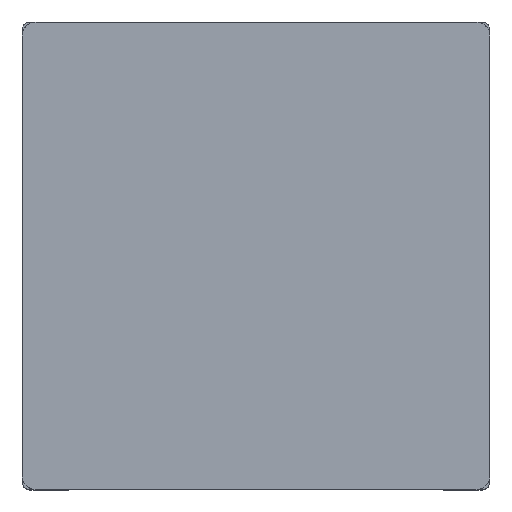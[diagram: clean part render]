
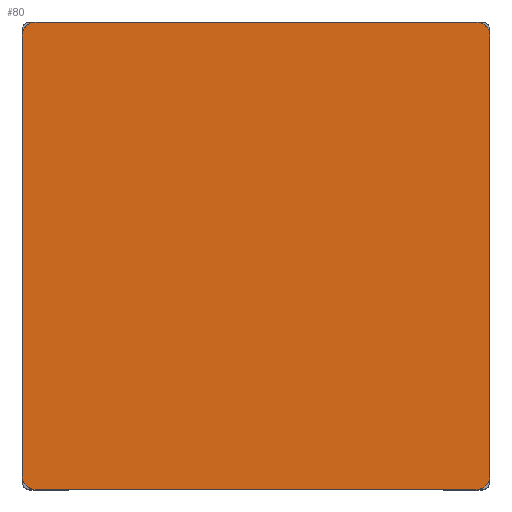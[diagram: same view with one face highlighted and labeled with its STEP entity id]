
A CAD part, top view. The second image highlights one B-rep face of the part: STEP entity #80.
In plain terms, the highlighted planar face has unit normal (0, 0, 1).
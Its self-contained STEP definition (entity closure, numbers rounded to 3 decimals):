
#80=ADVANCED_FACE($,(#238),#2098,.T.);
#238=FACE_OUTER_BOUND($,#396,.T.);
#396=EDGE_LOOP($,(#596,#597,#598,#599,#600,#601,#602,#603));
#596=ORIENTED_EDGE($,*,*,#1391,.F.);
#597=ORIENTED_EDGE($,*,*,#1382,.F.);
#598=ORIENTED_EDGE($,*,*,#1390,.F.);
#599=ORIENTED_EDGE($,*,*,#1381,.F.);
#600=ORIENTED_EDGE($,*,*,#1389,.F.);
#601=ORIENTED_EDGE($,*,*,#1380,.F.);
#602=ORIENTED_EDGE($,*,*,#1388,.F.);
#603=ORIENTED_EDGE($,*,*,#1383,.F.);
#1380=EDGE_CURVE($,#1781,#1780,#2350,.T.);
#1381=EDGE_CURVE($,#1783,#1782,#2351,.T.);
#1382=EDGE_CURVE($,#1785,#1784,#2352,.T.);
#1383=EDGE_CURVE($,#1787,#1786,#2353,.T.);
#1388=EDGE_CURVE($,#1786,#1781,#2166,.T.);
#1389=EDGE_CURVE($,#1780,#1783,#2167,.T.);
#1390=EDGE_CURVE($,#1782,#1785,#2168,.T.);
#1391=EDGE_CURVE($,#1784,#1787,#2169,.T.);
#1780=VERTEX_POINT($,#2918);
#1781=VERTEX_POINT($,#2919);
#1782=VERTEX_POINT($,#2920);
#1783=VERTEX_POINT($,#2921);
#1784=VERTEX_POINT($,#2922);
#1785=VERTEX_POINT($,#2923);
#1786=VERTEX_POINT($,#2924);
#1787=VERTEX_POINT($,#2925);
#2098=PLANE($,#2648);
#2166=(
BOUNDED_CURVE()
B_SPLINE_CURVE(2,(#2812,#2813,#2814),.UNSPECIFIED.,.F.,.F.)
B_SPLINE_CURVE_WITH_KNOTS((3,3),(-1.,0.),.UNSPECIFIED.)
CURVE()
GEOMETRIC_REPRESENTATION_ITEM()
RATIONAL_B_SPLINE_CURVE((1.,0.707,1.))
REPRESENTATION_ITEM($)
);
#2167=(
BOUNDED_CURVE()
B_SPLINE_CURVE(2,(#2815,#2816,#2817),.UNSPECIFIED.,.F.,.F.)
B_SPLINE_CURVE_WITH_KNOTS((3,3),(0.,1.),.UNSPECIFIED.)
CURVE()
GEOMETRIC_REPRESENTATION_ITEM()
RATIONAL_B_SPLINE_CURVE((1.,0.707,1.))
REPRESENTATION_ITEM($)
);
#2168=(
BOUNDED_CURVE()
B_SPLINE_CURVE(2,(#2818,#2819,#2820),.UNSPECIFIED.,.F.,.F.)
B_SPLINE_CURVE_WITH_KNOTS((3,3),(0.,1.),.UNSPECIFIED.)
CURVE()
GEOMETRIC_REPRESENTATION_ITEM()
RATIONAL_B_SPLINE_CURVE((1.,0.707,1.))
REPRESENTATION_ITEM($)
);
#2169=(
BOUNDED_CURVE()
B_SPLINE_CURVE(2,(#2821,#2822,#2823),.UNSPECIFIED.,.F.,.F.)
B_SPLINE_CURVE_WITH_KNOTS((3,3),(0.,1.),.UNSPECIFIED.)
CURVE()
GEOMETRIC_REPRESENTATION_ITEM()
RATIONAL_B_SPLINE_CURVE((1.,0.707,1.))
REPRESENTATION_ITEM($)
);
#2350=B_SPLINE_CURVE_WITH_KNOTS($,1,(#2792,#2793),.UNSPECIFIED.,.F.,.F.,
(2,2),(30.,970.),.UNSPECIFIED.);
#2351=B_SPLINE_CURVE_WITH_KNOTS($,1,(#2794,#2795),.UNSPECIFIED.,.F.,.F.,
(2,2),(30.,970.),.UNSPECIFIED.);
#2352=B_SPLINE_CURVE_WITH_KNOTS($,1,(#2796,#2797),.UNSPECIFIED.,.F.,.F.,
(2,2),(30.,970.),.UNSPECIFIED.);
#2353=B_SPLINE_CURVE_WITH_KNOTS($,1,(#2798,#2799),.UNSPECIFIED.,.F.,.F.,
(2,2),(30.,970.),.UNSPECIFIED.);
#2648=AXIS2_PLACEMENT_3D($,#2858,#2717,$);
#2717=DIRECTION($,(0.,0.,1.));
#2792=CARTESIAN_POINT($,(0.,30.,402.));
#2793=CARTESIAN_POINT($,(0.,970.,402.));
#2794=CARTESIAN_POINT($,(30.,1000.,402.));
#2795=CARTESIAN_POINT($,(970.,1000.,402.));
#2796=CARTESIAN_POINT($,(1000.,970.,402.));
#2797=CARTESIAN_POINT($,(1000.,30.,402.));
#2798=CARTESIAN_POINT($,(970.,0.,402.));
#2799=CARTESIAN_POINT($,(30.,0.,402.));
#2812=CARTESIAN_POINT($,(30.,0.,402.));
#2813=CARTESIAN_POINT($,(0.,0.,402.));
#2814=CARTESIAN_POINT($,(0.,30.,402.));
#2815=CARTESIAN_POINT($,(0.,970.,402.));
#2816=CARTESIAN_POINT($,(0.,1000.,402.));
#2817=CARTESIAN_POINT($,(30.,1000.,402.));
#2818=CARTESIAN_POINT($,(970.,1000.,402.));
#2819=CARTESIAN_POINT($,(1000.,1000.,402.));
#2820=CARTESIAN_POINT($,(1000.,970.,402.));
#2821=CARTESIAN_POINT($,(1000.,30.,402.));
#2822=CARTESIAN_POINT($,(1000.,0.,402.));
#2823=CARTESIAN_POINT($,(970.,0.,402.));
#2858=CARTESIAN_POINT($,(0.,0.,402.));
#2918=CARTESIAN_POINT($,(0.,970.,402.));
#2919=CARTESIAN_POINT($,(0.,30.,402.));
#2920=CARTESIAN_POINT($,(970.,1000.,402.));
#2921=CARTESIAN_POINT($,(30.,1000.,402.));
#2922=CARTESIAN_POINT($,(1000.,30.,402.));
#2923=CARTESIAN_POINT($,(1000.,970.,402.));
#2924=CARTESIAN_POINT($,(30.,0.,402.));
#2925=CARTESIAN_POINT($,(970.,0.,402.));
